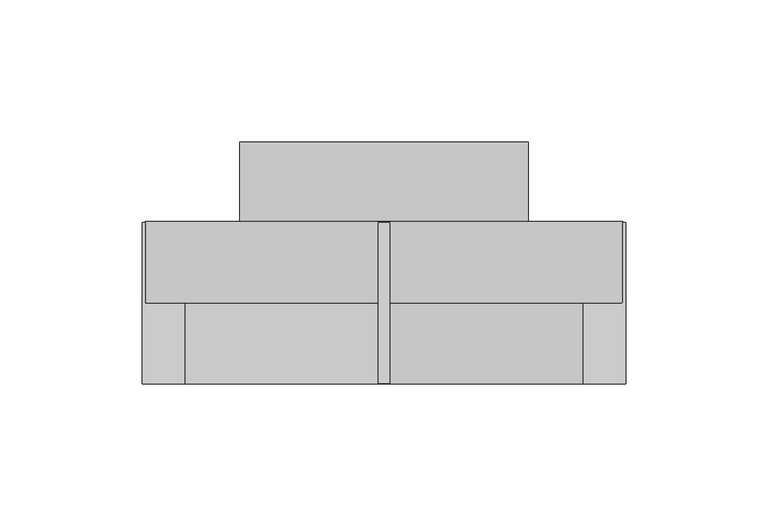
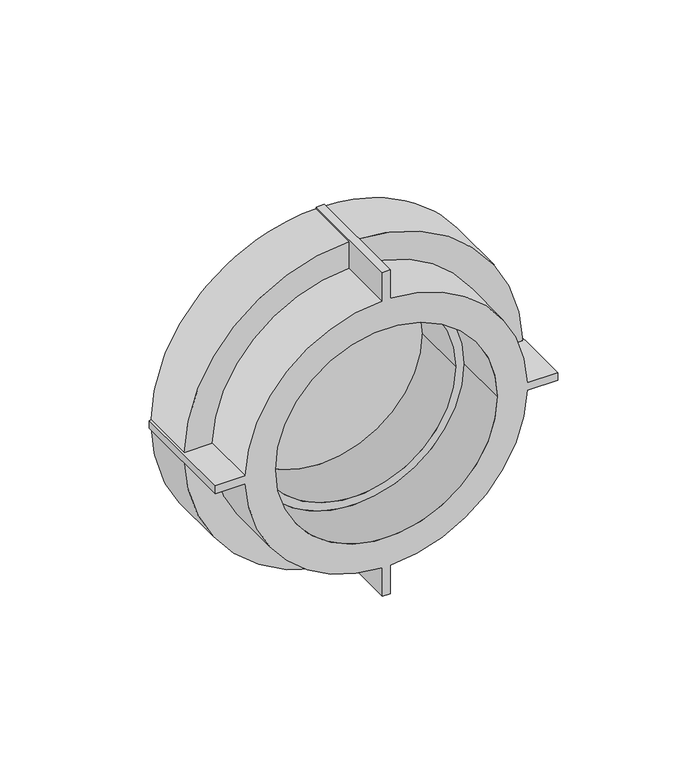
"""IFC4 building model written with IfcOpenShell, lengths in millimetres: pipe fitting geometry, EGB_VASEN_ PPR_Entronque rosca hembra WXR102 : Entronque rosca hembra WXR102."""

from ifc_helpers import new_model, si_unit, point, frame, origin, origin_2d, place, context, project, spatial, polyline, circle_curve, trimmed, segment, composite_curve, outline, extrude, source, transform, mapped, element, save
from ifc_brep_helpers import plane_surface, cylinder_surface, revolved_surface, advanced_brep


def pipe_fitting_5214842f(model_context):
    return source(origin(), model_context, "Body", "SolidModel", [
        advanced_brep(
        [(2.0, -28.3333333, 85.0), (-2.0, -28.3333333, 85.0), (-2.0, -28.3333333, 69.9714227), (-69.9714227, -28.3333333, 2.0), (-85.0, -28.3333333, 2.0), (-85.0, -28.3333333, -2.0), (-69.9714227, -28.3333333, -2.0), (-2.0, -28.3333333, -69.9714227), (-2.0, -28.3333333, -85.0), (2.0, -28.3333333, -85.0), (2.0, -28.3333333, -69.9714227), (69.9714227, -28.3333333, -2.0), (85.0, -28.3333333, -2.0), (85.0, -28.3333333, 2.0), (69.9714227, -28.3333333, 2.0), (2.0, -28.3333333, 69.9714227), (-55.0, -28.3333333, 0.0), (55.0, -28.3333333, 0.0), (-2.0, 28.3333333, 85.0), (2.0, 28.3333333, 85.0), (2.0, 28.3333333, 83.9761871), (-2.0, 28.3333333, 83.9761871), (2.0, 28.3333333, -85.0), (-2.0, 28.3333333, -85.0), (-2.0, 28.3333333, -83.9761871), (2.0, 28.3333333, -83.9761871), (85.0, 28.3333333, 2.0), (85.0, 28.3333333, -2.0), (83.9761871, 28.3333333, -2.0), (84.0, 28.3333333, 0.0), (83.9761871, 28.3333333, 2.0), (-85.0, 28.3333333, -2.0), (-85.0, 28.3333333, 2.0), (-83.9761871, 28.3333333, 2.0), (-84.0, 28.3333333, 0.0), (-83.9761871, 28.3333333, -2.0), (2.0, 0.0, 69.9714227), (2.0, 0.0, 83.9761871), (-2.0, 0.0, 83.9761871), (-2.0, 0.0, 69.9714227), (2.0, 0.0, -83.9761871), (2.0, 0.0, -69.9714227), (-2.0, 0.0, -69.9714227), (-2.0, 0.0, -83.9761871), (69.9714227, 0.0, -2.0), (83.9761871, 0.0, -2.0), (83.9761871, 0.0, 2.0), (69.9714227, 0.0, 2.0), (-83.9761871, 0.0, -2.0), (-69.9714227, 0.0, -2.0), (-69.9714227, 0.0, 2.0), (-83.9761871, 0.0, 2.0), (-55.0, 0.0, 0.0), (55.0, 0.0, 0.0), (-50.8, 0.0, 0.0), (50.8, 0.0, 0.0), (-84.0, 28.6666667, 0.0), (84.0, 28.6666667, 0.0), (-50.8, 28.6666667, 0.0), (50.8, 28.6666667, 0.0)],
        [
            (0, 1),
            (1, 2),
            (2, 3, circle_curve(frame((0.0, -28.3333333, 0.0), z_axis=(0.0, -1.0, 0.0), x_axis=(1.0, 0.0, 0.0)), 70.0)),
            (3, 4),
            (4, 5),
            (5, 6),
            (6, 7, circle_curve(frame((0.0, -28.3333333, 0.0), z_axis=(0.0, -1.0, 0.0), x_axis=(1.0, 0.0, 0.0)), 70.0)),
            (7, 8),
            (8, 9),
            (9, 10),
            (10, 11, circle_curve(frame((0.0, -28.3333333, 0.0), z_axis=(0.0, -1.0, 0.0), x_axis=(1.0, 0.0, 0.0)), 70.0)),
            (11, 12),
            (12, 13),
            (13, 14),
            (14, 15, circle_curve(frame((0.0, -28.3333333, 0.0), z_axis=(0.0, -1.0, 0.0), x_axis=(1.0, 0.0, 0.0)), 70.0)),
            (15, 0),
            (16, 17, circle_curve(frame((0.0, -28.3333333, 0.0), z_axis=(0.0, 1.0, 0.0), x_axis=(1.0, 0.0, 0.0)), 55.0)),
            (17, 16, circle_curve(frame((0.0, -28.3333333, 0.0), z_axis=(0.0, 1.0, 0.0), x_axis=(1.0, 0.0, 0.0)), 55.0)),
            (18, 19),
            (19, 20),
            (20, 21, circle_curve(frame((0.0, 28.3333333, 0.0), z_axis=(0.0, -1.0, 0.0), x_axis=(1.0, 0.0, 0.0)), 84.0)),
            (21, 18),
            (22, 23),
            (23, 24),
            (24, 25, circle_curve(frame((0.0, 28.3333333, 0.0), z_axis=(0.0, -1.0, 0.0), x_axis=(1.0, 0.0, 0.0)), 84.0)),
            (25, 22),
            (26, 27),
            (27, 28),
            (28, 29, circle_curve(frame((0.0, 28.3333333, 0.0), z_axis=(0.0, -1.0, 0.0), x_axis=(1.0, 0.0, 0.0)), 84.0)),
            (29, 30, circle_curve(frame((0.0, 28.3333333, 0.0), z_axis=(0.0, -1.0, 0.0), x_axis=(1.0, 0.0, 0.0)), 84.0)),
            (30, 26),
            (31, 32),
            (32, 33),
            (33, 34, circle_curve(frame((0.0, 28.3333333, 0.0), z_axis=(0.0, -1.0, 0.0), x_axis=(1.0, 0.0, 0.0)), 84.0)),
            (34, 35, circle_curve(frame((0.0, 28.3333333, 0.0), z_axis=(0.0, -1.0, 0.0), x_axis=(1.0, 0.0, 0.0)), 84.0)),
            (35, 31),
            (19, 0),
            (15, 36),
            (36, 37),
            (37, 20),
            (18, 1),
            (21, 38),
            (38, 39),
            (39, 2),
            (8, 23),
            (22, 9),
            (25, 40),
            (40, 41),
            (41, 10),
            (7, 42),
            (42, 43),
            (43, 24),
            (27, 12),
            (11, 44),
            (44, 45),
            (45, 28),
            (26, 13),
            (30, 46),
            (46, 47),
            (47, 14),
            (5, 31),
            (35, 48),
            (48, 49),
            (49, 6),
            (32, 4),
            (3, 50),
            (50, 51),
            (51, 33),
            (49, 42, circle_curve(frame((0.0, 0.0, 0.0), z_axis=(0.0, -1.0, 0.0), x_axis=(1.0, 0.0, 0.0)), 70.0)),
            (41, 44, circle_curve(frame((0.0, 0.0, 0.0), z_axis=(0.0, -1.0, 0.0), x_axis=(1.0, 0.0, 0.0)), 70.0)),
            (39, 50, circle_curve(frame((0.0, 0.0, 0.0), z_axis=(0.0, -1.0, 0.0), x_axis=(1.0, 0.0, 0.0)), 70.0)),
            (47, 36, circle_curve(frame((0.0, 0.0, 0.0), z_axis=(0.0, -1.0, 0.0), x_axis=(1.0, 0.0, 0.0)), 70.0)),
            (16, 52),
            (52, 53, circle_curve(frame((0.0, 0.0, 0.0), z_axis=(0.0, 1.0, 0.0), x_axis=(1.0, 0.0, 0.0)), 55.0)),
            (53, 17),
            (53, 52, circle_curve(frame((0.0, 0.0, 0.0), z_axis=(0.0, 1.0, 0.0), x_axis=(1.0, 0.0, 0.0)), 55.0)),
            (54, 55, circle_curve(frame((0.0, 0.0, 0.0), z_axis=(0.0, 1.0, 0.0), x_axis=(1.0, 0.0, 0.0)), 50.8)),
            (55, 54, circle_curve(frame((0.0, 0.0, 0.0), z_axis=(0.0, 1.0, 0.0), x_axis=(1.0, 0.0, 0.0)), 50.8)),
            (40, 45, circle_curve(frame((0.0, 0.0, 0.0), z_axis=(0.0, -1.0, 0.0), x_axis=(1.0, 0.0, 0.0)), 84.0)),
            (48, 43, circle_curve(frame((0.0, 0.0, 0.0), z_axis=(0.0, -1.0, 0.0), x_axis=(1.0, 0.0, 0.0)), 84.0)),
            (46, 37, circle_curve(frame((0.0, 0.0, 0.0), z_axis=(0.0, -1.0, 0.0), x_axis=(1.0, 0.0, 0.0)), 84.0)),
            (38, 51, circle_curve(frame((0.0, 0.0, 0.0), z_axis=(0.0, -1.0, 0.0), x_axis=(1.0, 0.0, 0.0)), 84.0)),
            (56, 57, circle_curve(frame((0.0, 28.6666667, 0.0), z_axis=(0.0, 1.0, 0.0), x_axis=(1.0, 0.0, 0.0)), 84.0)),
            (57, 56, circle_curve(frame((0.0, 28.6666667, 0.0), z_axis=(0.0, 1.0, 0.0), x_axis=(1.0, 0.0, 0.0)), 84.0)),
            (58, 59, circle_curve(frame((0.0, 28.6666667, 0.0), z_axis=(0.0, -1.0, 0.0), x_axis=(1.0, 0.0, 0.0)), 50.8)),
            (59, 58, circle_curve(frame((0.0, 28.6666667, 0.0), z_axis=(0.0, -1.0, 0.0), x_axis=(1.0, 0.0, 0.0)), 50.8)),
            (57, 29),
            (34, 56),
            (54, 58),
            (59, 55),
        ],
        [
            plane_surface(frame((0.0, -28.3333333, 0.0), z_axis=(0.0, -1.0, 0.0), x_axis=(0.0, 0.0, 1.0))),
            plane_surface(frame((0.0, 28.3333333, 0.0), z_axis=(0.0, 1.0, 0.0), x_axis=(0.0, 0.0, 1.0))),
            plane_surface(frame((2.0, -28.3333333, 69.0), z_axis=(1.0, 0.0, 0.0), x_axis=(0.0, 1.0, 0.0))),
            plane_surface(frame((2.0, -28.3333333, 85.0), z_axis=(0.0, 0.0, 1.0), x_axis=(0.0, 1.0, 0.0))),
            plane_surface(frame((-2.0, -28.3333333, 85.0), z_axis=(-1.0, 0.0, 0.0), x_axis=(0.0, 1.0, 0.0))),
            plane_surface(frame((-2.0, -28.3333333, -85.0), z_axis=(0.0, 0.0, -1.0), x_axis=(0.0, 1.0, 0.0))),
            plane_surface(frame((2.0, -28.3333333, -85.0), z_axis=(1.0, 0.0, 0.0), x_axis=(0.0, 1.0, 0.0))),
            plane_surface(frame((-2.0, -28.3333333, -69.0), z_axis=(-1.0, 0.0, 0.0), x_axis=(0.0, 1.0, 0.0))),
            plane_surface(frame((69.0, -28.3333333, -2.0), z_axis=(0.0, 0.0, -1.0), x_axis=(0.0, 1.0, 0.0))),
            plane_surface(frame((85.0, -28.3333333, -2.0), z_axis=(1.0, 0.0, 0.0), x_axis=(0.0, 1.0, 0.0))),
            plane_surface(frame((85.0, -28.3333333, 2.0), z_axis=(0.0, 0.0, 1.0), x_axis=(0.0, 1.0, 0.0))),
            plane_surface(frame((-85.0, -28.3333333, -2.0), z_axis=(0.0, 0.0, -1.0), x_axis=(0.0, 1.0, 0.0))),
            plane_surface(frame((-69.0, -28.3333333, 2.0), z_axis=(0.0, 0.0, 1.0), x_axis=(0.0, 1.0, 0.0))),
            plane_surface(frame((-85.0, -28.3333333, 2.0), z_axis=(-1.0, 0.0, 0.0), x_axis=(0.0, 1.0, 0.0))),
            cylinder_surface(frame((0.0, 0.0, 0.0), z_axis=(0.0, -1.0, 0.0), x_axis=(1.0, 0.0, 0.0)), 70.0),
            revolved_surface(polyline([(55.0, 0.0, 0.0), (55.0, -28.3333333, 0.0)]), (0.0, 0.0, 0.0), (0.0, 1.0, 0.0)),
            plane_surface(frame((84.0, 0.0, 0.0), z_axis=(0.0, -1.0, 0.0), x_axis=(0.0, 0.0, 1.0))),
            plane_surface(frame((84.0, 28.6666667, 0.0), z_axis=(0.0, 1.0, 0.0), x_axis=(0.0, 0.0, -1.0))),
            cylinder_surface(frame((0.0, 28.6666667, 0.0), z_axis=(0.0, -1.0, 0.0), x_axis=(1.0, 0.0, 0.0)), 84.0),
            revolved_surface(polyline([(50.8, 28.6666667, 0.0), (50.8, 0.0, 0.0)]), (0.0, 0.0, 0.0), (0.0, 1.0, 0.0)),
        ],
        [
            (0, [[1, 2, 3, 4, 5, 6, 7, 8, 9, 10, 11, 12, 13, 14, 15, 16], [17, 18]]),
            (1, [[19, 20, 21, 22]]),
            (1, [[23, 24, 25, 26]]),
            (1, [[27, 28, 29, 30, 31]]),
            (1, [[32, 33, 34, 35, 36]]),
            (2, [[37, -16, 38, 39, 40, -20]]),
            (3, [[-1, -37, -19, 41]]),
            (4, [[-41, -22, 42, 43, 44, -2]]),
            (5, [[-9, 45, -23, 46]]),
            (6, [[-46, -26, 47, 48, 49, -10]]),
            (7, [[-45, -8, 50, 51, 52, -24]]),
            (8, [[53, -12, 54, 55, 56, -28]]),
            (9, [[-13, -53, -27, 57]]),
            (10, [[-57, -31, 58, 59, 60, -14]]),
            (11, [[61, -36, 62, 63, 64, -6]]),
            (12, [[65, -4, 66, 67, 68, -33]]),
            (13, [[-5, -65, -32, -61]]),
            (14, [[-7, -64, 69, -50]]),
            (14, [[-11, -49, 70, -54]]),
            (14, [[-3, -44, 71, -66]]),
            (14, [[-15, -60, 72, -38]]),
            (15, [[-17, 73, 74, 75]]),
            (15, [[-18, -75, 76, -73]]),
            (16, [[-74, -76], [77, 78]]),
            (16, [[79, -55, -70, -48]]),
            (16, [[80, -51, -69, -63]]),
            (16, [[81, -39, -72, -59]]),
            (16, [[82, -67, -71, -43]]),
            (17, [[83, 84], [85, 86]]),
            (18, [[-84, 87, -29, -56, -79, -47, -25, -52, -80, -62, -35, 88]]),
            (18, [[-83, -88, -34, -68, -82, -42, -21, -40, -81, -58, -30, -87]]),
            (19, [[-77, 89, -86, 90]]),
            (19, [[-78, -90, -85, -89]]),
        ],
    ),
        extrude(outline(composite_curve([segment(trimmed(circle_curve(origin_2d(), 50.8), [point((0.0, -50.8))], [point((0.0, 50.8))], False, "CARTESIAN"), True, "CONTINUOUS"), segment(trimmed(circle_curve(origin_2d(), 50.8), [point((0.0, 50.8))], [point((0.0, -50.8))], False, "CARTESIAN"), True, "CONTINUOUS")], self_intersect=False)), frame((0.0, 28.3333333, 0.0), z_axis=(0.0, 1.0, 0.0), x_axis=(0.0, 0.0, 1.0)), (0.0, 0.0, 1.0), 28.3333333),
    ])


if __name__ == "__main__":
    model = new_model("IFC4")
    model_context = context("Model", 3, world=origin())
    ifc_project = project(units=[si_unit("LENGTHUNIT", "METRE", prefix="MILLI")], contexts=[model_context])
    site = spatial("IfcSite", under=ifc_project)
    building = spatial("IfcBuilding", under=site)
    placement = place(None, origin())
    pipe_fitting_shape = pipe_fitting_5214842f(model_context)
    element("IfcPipeFitting", 1, ObjectType="EGB_VASEN_ PPR_Entronque rosca hembra WXR102 : Entronque rosca hembra WXR102", at=placement, inside=building, context=model_context, shape_type="MappedRepresentation", body=[
        mapped(pipe_fitting_shape, transform((0.0, 0.0, 0.0), x_axis=(1.0, 0.0, 0.0), y_axis=(0.0, 1.0, 0.0), z_axis=(0.0, 0.0, 1.0))),
    ])
    save(model, "model.ifc")
